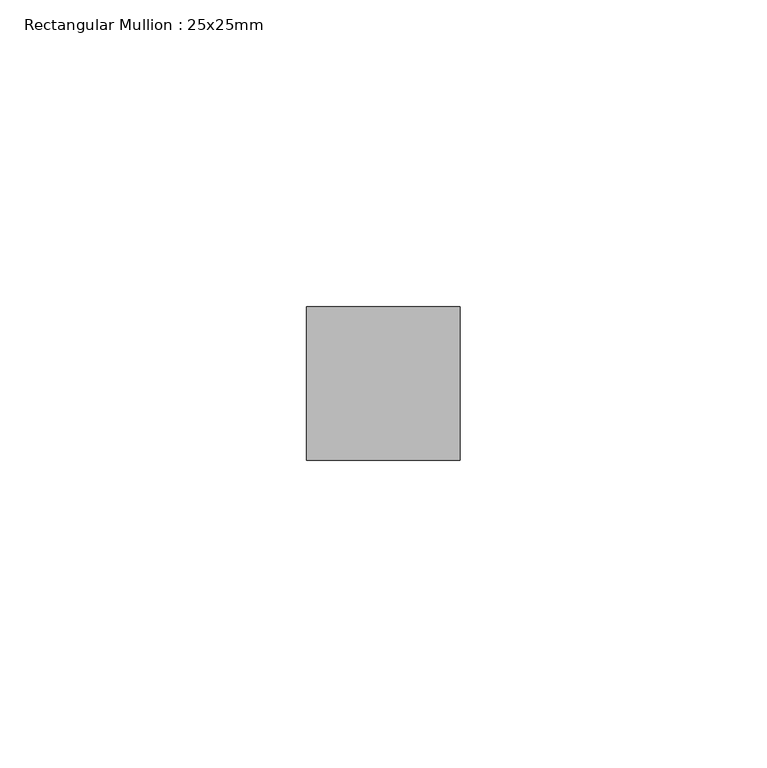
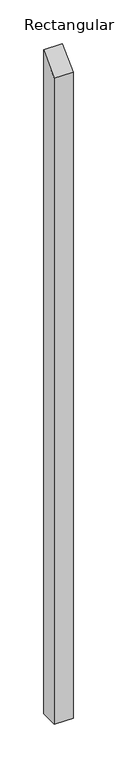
"""IFC4 building model written with IfcOpenShell, lengths in millimetres: member geometry, Rectangular Mullion : 25x25mm."""

from ifc_helpers import new_model, si_unit, frame, origin, place, context, project, spatial, polyline, outline, extrude, source, transform, mapped, element, save


def rectangular_mullion_25x25mm_1307ac6f(model_context):
    return source(origin(), model_context, "Body", "SweptSolid", [
        extrude(outline(polyline([(-0.5, -0.5), (24.5, 24.5), (24.5, -906.7703315), (-0.5, -906.7703315), (-0.5, -0.5)])), frame((-25.0, 0.0, 0.0), z_axis=(1.0, 0.0, 0.0), x_axis=(0.0, 1.0, 0.0)), (0.0, 0.0, 1.0), 25.0),
    ])


if __name__ == "__main__":
    model = new_model("IFC4")
    model_context = context("Model", 3, world=origin())
    ifc_project = project(units=[si_unit("LENGTHUNIT", "METRE", prefix="MILLI")], contexts=[model_context])
    site = spatial("IfcSite", under=ifc_project)
    building = spatial("IfcBuilding", under=site)
    placement = place(None, origin())
    rectangular_mullion_25x25mm_shape = rectangular_mullion_25x25mm_1307ac6f(model_context)
    element("IfcMember", 1, ObjectType="Rectangular Mullion : 25x25mm", at=placement, inside=building, context=model_context, shape_type="MappedRepresentation", body=[
        mapped(rectangular_mullion_25x25mm_shape, transform((0.0, 0.0, 0.0), x_axis=(1.0, 0.0, 0.0), y_axis=(0.0, 1.0, 0.0), z_axis=(0.0, 0.0, 1.0))),
    ])
    save(model, "model.ifc")
